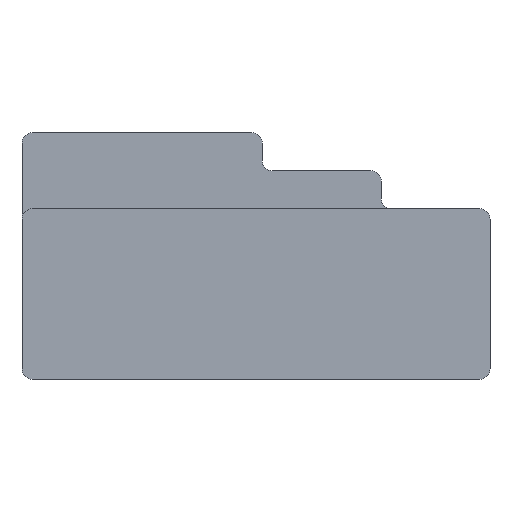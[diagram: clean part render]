
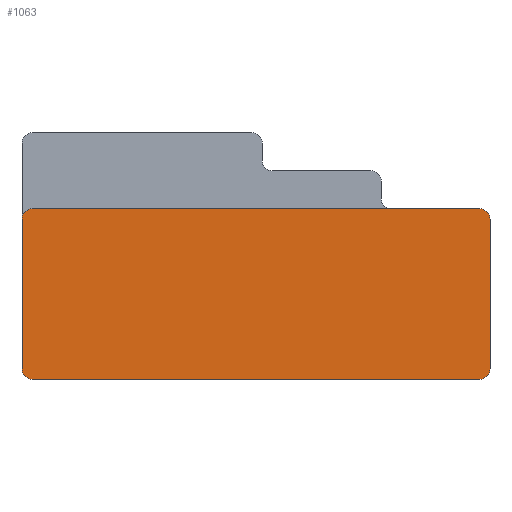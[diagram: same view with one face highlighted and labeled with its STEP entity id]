
A CAD part, front view. The second image highlights one B-rep face of the part: STEP entity #1063.
In plain terms, the highlighted planar face has unit normal (0, -1, 0).
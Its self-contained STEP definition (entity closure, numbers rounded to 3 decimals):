
#190=CARTESIAN_POINT('',(-10.9,-11.6,7.8));
#191=DIRECTION('',(0.,-1.,0.));
#192=DIRECTION('',(0.,0.,1.));
#193=AXIS2_PLACEMENT_3D('',#190,#191,#192);
#195=CARTESIAN_POINT('',(10.9,-11.6,7.8));
#196=DIRECTION('',(0.,-1.,0.));
#197=DIRECTION('',(1.,0.,0.));
#198=AXIS2_PLACEMENT_3D('',#195,#196,#197);
#200=CARTESIAN_POINT('',(10.9,-11.6,0.5));
#201=DIRECTION('',(0.,-1.,0.));
#202=DIRECTION('',(0.,0.,-1.));
#203=AXIS2_PLACEMENT_3D('',#200,#201,#202);
#205=CARTESIAN_POINT('',(-10.9,-11.6,0.5));
#206=DIRECTION('',(0.,-1.,0.));
#207=DIRECTION('',(-1.,0.,0.));
#208=AXIS2_PLACEMENT_3D('',#205,#206,#207);
#210=DIRECTION('',(0.,0.,1.));
#211=VECTOR('',#210,7.3);
#212=CARTESIAN_POINT('',(-11.4,-11.6,0.5));
#213=LINE('',#212,#211);
#298=DIRECTION('',(1.,0.,0.));
#299=VECTOR('',#298,21.8);
#300=CARTESIAN_POINT('',(-10.9,-11.6,8.3));
#301=LINE('',#300,#299);
#490=DIRECTION('',(1.,0.,0.));
#491=VECTOR('',#490,21.8);
#492=CARTESIAN_POINT('',(-10.9,-11.6,0.));
#493=LINE('',#492,#491);
#560=DIRECTION('',(0.,0.,1.));
#561=VECTOR('',#560,7.3);
#562=CARTESIAN_POINT('',(11.4,-11.6,0.5));
#563=LINE('',#562,#561);
#688=CARTESIAN_POINT('',(-10.9,-11.6,8.3));
#689=CARTESIAN_POINT('',(-11.4,-11.6,7.8));
#690=VERTEX_POINT('',#688);
#691=VERTEX_POINT('',#689);
#716=CARTESIAN_POINT('',(11.4,-11.6,7.8));
#717=VERTEX_POINT('',#716);
#718=CARTESIAN_POINT('',(10.9,-11.6,8.3));
#719=VERTEX_POINT('',#718);
#720=CARTESIAN_POINT('',(10.9,-11.6,0.));
#721=CARTESIAN_POINT('',(11.4,-11.6,0.5));
#722=VERTEX_POINT('',#720);
#723=VERTEX_POINT('',#721);
#732=CARTESIAN_POINT('',(-11.4,-11.6,0.5));
#733=VERTEX_POINT('',#732);
#734=CARTESIAN_POINT('',(-10.9,-11.6,0.));
#735=VERTEX_POINT('',#734);
#1041=CARTESIAN_POINT('',(-11.4,-11.6,0.));
#1042=DIRECTION('',(0.,-1.,0.));
#1043=DIRECTION('',(1.,0.,0.));
#1044=AXIS2_PLACEMENT_3D('',#1041,#1042,#1043);
#1045=PLANE('',#1044);
#1047=ORIENTED_EDGE('',*,*,#1046,.F.);
#1049=ORIENTED_EDGE('',*,*,#1048,.T.);
#1051=ORIENTED_EDGE('',*,*,#1050,.F.);
#1053=ORIENTED_EDGE('',*,*,#1052,.F.);
#1054=ORIENTED_EDGE('',*,*,#1031,.F.);
#1056=ORIENTED_EDGE('',*,*,#1055,.F.);
#1058=ORIENTED_EDGE('',*,*,#1057,.F.);
#1060=ORIENTED_EDGE('',*,*,#1059,.T.);
#1061=EDGE_LOOP('',(#1047,#1049,#1051,#1053,#1054,#1056,#1058,#1060));
#1062=FACE_OUTER_BOUND('',#1061,.F.);
#1063=ADVANCED_FACE('',(#1062),#1045,.T.);
#194=CIRCLE('',#193,0.5);
#199=CIRCLE('',#198,0.5);
#204=CIRCLE('',#203,0.5);
#209=CIRCLE('',#208,0.5);
#1031=EDGE_CURVE('',#722,#723,#204,.T.);
#1046=EDGE_CURVE('',#690,#691,#194,.T.);
#1048=EDGE_CURVE('',#690,#719,#301,.T.);
#1050=EDGE_CURVE('',#717,#719,#199,.T.);
#1052=EDGE_CURVE('',#723,#717,#563,.T.);
#1055=EDGE_CURVE('',#735,#722,#493,.T.);
#1057=EDGE_CURVE('',#733,#735,#209,.T.);
#1059=EDGE_CURVE('',#733,#691,#213,.T.);
